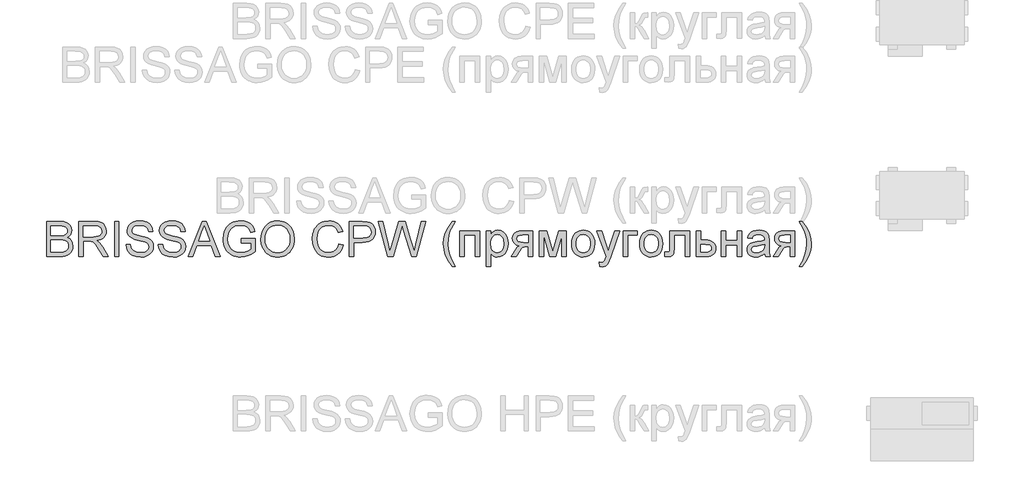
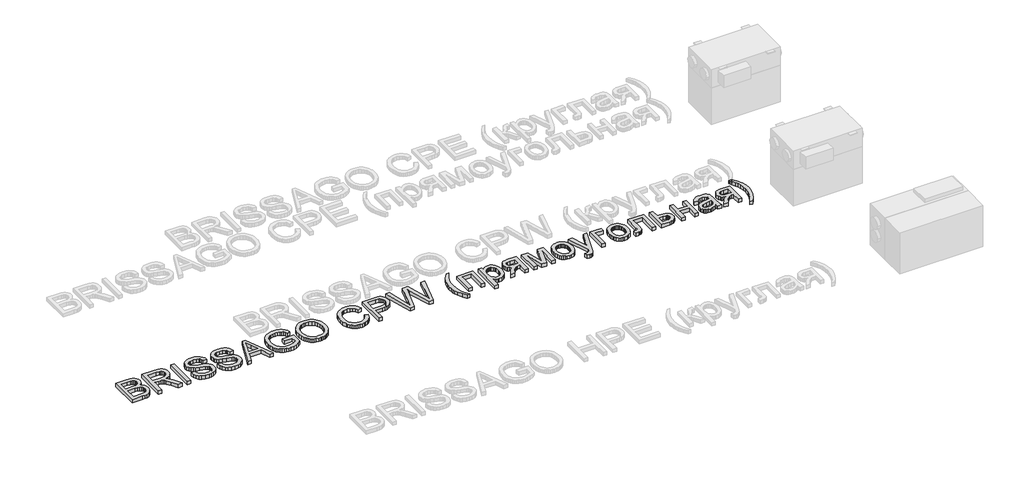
# One storey, part 17 of 28: 1 proxy.
"""IFC4 building model written with IfcOpenShell, lengths in millimetres."""

from ifc_helpers import new_model, si_unit, origin, origin_with_axes, place, context, project, spatial, polyline, outline, extrude, element, save

model = new_model("IFC4")

# Units and contexts
model_context = context("Model", 3, world=origin())
ifc_project = project(units=[si_unit("LENGTHUNIT", "METRE", prefix="MILLI")], contexts=[model_context])

# Site, building, storey
site = spatial("IfcSite", under=ifc_project)
building = spatial("IfcBuilding", under=site)
storey = spatial("IfcBuildingStorey", under=building, Name="Уровень 1", Elevation=0.0)

# Proxy
placement = place(None, origin())
element("IfcBuildingElementProxy", 1, Name="400 мм Arial", ObjectType="400 мм Arial", at=placement, inside=storey, context=model_context, shape_type="SweptSolid", body=[
    extrude(outline(polyline([(-30705.9711322, 7771.2907411), (-30705.9711322, 8173.1159817), (-30552.6379166, 8173.1159817), (-30510.4663772, 8170.160663), (-30477.5409386, 8161.294707), (-30452.3042338, 8146.2973843), (-30433.1988955, 8124.9479658), (-30421.1691542, 8099.8338883), (-30417.1592405, 8073.5425884), (-30420.5314921, 8049.3482158), (-30430.648247, 8026.6008458), (-30447.5830815, 8006.6984299), (-30471.409572, 7991.0389196), (-30442.9477683, 7976.176487), (-30421.917181, 7953.564007), (-30408.9309465, 7924.6975331), (-30404.6022017, 7891.0731188), (-30407.5575204, 7863.0527735), (-30416.4234765, 7837.0680419), (-30429.6549656, 7814.9705967), (-30445.7068833, 7798.6121107), (-30465.3640446, 7786.7663104), (-30489.4112643, 7778.2069227), (-30518.6333575, 7773.0197865), (-30553.815139, 7771.2907411), (-30705.9711322, 7771.2907411)]), holes=[polyline([(-30655.7429771, 8009.8744777), (-30564.017733, 8009.8744777), (-30510.4541145, 8014.1909598), (-30491.7043954, 8021.6344389), (-30478.2276517, 8032.7812633), (-30470.0974596, 8047.4597549), (-30467.3873956, 8065.4982354), (-30469.9135186, 8083.0094184), (-30477.4918877, 8098.2642585), (-30489.7791463, 8110.1713724), (-30506.431938, 8117.6393769), (-30531.9874739, 8121.5757142), (-30570.9829654, 8122.8878267), (-30655.7429771, 8122.8878267), (-30655.7429771, 8009.8744777)]), polyline([(-30655.7429771, 7821.5188962), (-30552.7360184, 7821.5188962), (-30515.4573096, 7823.4809335), (-30483.9175599, 7834.4192915), (-30472.3415398, 7843.8493333), (-30463.0218626, 7856.7374659), (-30456.8782332, 7872.5073407), (-30454.8303568, 7890.5826094), (-30457.2338525, 7911.5764086), (-30464.4443396, 7929.6271519), (-30477.0381666, 7943.7415577), (-30495.5916819, 7952.9263449), (-30521.870719, 7957.9663282), (-30557.6411117, 7959.6463227), (-30655.7429771, 7959.6463227), (-30655.7429771, 7821.5188962)])]), origin_with_axes(), (0.0, 0.0, 1.0), 50.0),
    extrude(outline(polyline([(-30335.5384885, 7771.2907411), (-30335.5384885, 8173.1159817), (-30162.3886961, 8173.1159817), (-30115.8516237, 8170.4059177), (-30081.9942174, 8162.2757256), (-30057.2480219, 8147.2661402), (-30038.0445817, 8123.9178963), (-30025.7205349, 8094.9655832), (-30021.6125193, 8063.1437906), (-30023.3139735, 8042.5056107), (-30028.4183362, 8023.559688), (-30036.9256073, 8006.3060224), (-30048.8357869, 7990.744614), (-30064.3021591, 7977.3721035), (-30083.4780081, 7966.6851315), (-30106.3633339, 7958.6836981), (-30132.9581365, 7953.3678033), (-30104.4104937, 7931.8834948), (-30063.6982195, 7880.1838117), (-29996.6946455, 7771.2907411), (-30055.0652554, 7771.2907411), (-30107.3535496, 7854.5792249), (-30145.1227678, 7909.7124732), (-30159.1635973, 7925.7889164), (-30171.6593224, 7935.7585185), (-30195.5471266, 7945.3234503), (-30224.6833806, 7947.0892839), (-30285.3103334, 7947.0892839), (-30285.3103334, 7771.2907411), (-30335.5384885, 7771.2907411)]), holes=[polyline([(-30285.3103334, 7997.317439), (-30172.8855957, 7997.317439), (-30140.5978192, 7999.0955353), (-30115.5450554, 8004.4298242), (-30096.6849718, 8013.675925), (-30082.9752361, 8027.189457), (-30074.6243148, 8043.5356803), (-30071.8406743, 8061.2798552), (-30077.1504378, 8085.7807961), (-30093.0797282, 8105.5237965), (-30105.2412938, 8113.1205597), (-30120.4869368, 8118.5468191), (-30160.2304551, 8122.8878267), (-30285.3103334, 8122.8878267), (-30285.3103334, 7997.317439)])]), origin_with_axes(), (0.0, 0.0, 1.0), 50.0),
    extrude(outline(polyline([(-29927.4347285, 7771.2907411), (-29927.4347285, 8173.1159817), (-29877.2065734, 8173.1159817), (-29877.2065734, 7771.2907411), (-29927.4347285, 7771.2907411)])), origin_with_axes(), (0.0, 0.0, 1.0), 50.0),
    extrude(outline(polyline([(-29795.5858214, 7909.4181676), (-29745.3576664, 7909.4181676), (-29739.5941818, 7881.5449751), (-29729.1708586, 7859.1409616), (-29712.9104744, 7841.3599985), (-29689.6358068, 7827.3559572), (-29661.1862659, 7818.2692719), (-29629.4012615, 7815.2403768), (-29601.4177044, 7817.5335079), (-29576.9167635, 7824.4129012), (-29557.0633985, 7835.3022083), (-29543.022569, 7849.6250806), (-29534.6716477, 7866.0694058), (-29531.8880073, 7883.3230714), (-29533.9726719, 7900.1352786), (-29540.2266659, 7914.6666174), (-29552.9308574, 7927.0642406), (-29574.366115, 7937.4753011), (-29647.5010556, 7956.6542158), (-29695.509656, 7969.3461446), (-29726.2278026, 7981.4249368), (-29751.2315156, 7998.3229831), (-29768.951165, 8018.8017475), (-29779.5093782, 8042.4197716), (-29783.0287827, 8068.735597), (-29778.6755124, 8098.1538939), (-29765.6157016, 8125.585628), (-29744.1927067, 8148.8357701), (-29714.7498844, 8165.7092909), (-29679.4086874, 8175.9731986), (-29640.2905685, 8179.3945011), (-29597.9105627, 8175.813783), (-29560.8280576, 8165.0716288), (-29530.3674284, 8147.3887675), (-29507.8530503, 8122.9859285), (-29493.6037543, 8093.3836907), (-29487.9383716, 8060.1026328), (-29538.1665267, 8060.1026328), (-29547.388102, 8090.0727527), (-29555.751286, 8101.9308157), (-29566.6160676, 8111.704214), (-29596.6597639, 8124.800813), (-29638.3285312, 8129.1663461), (-29680.9783172, 8124.849864), (-29697.281621, 8119.4542614), (-29710.2371986, 8111.9004177), (-29727.1597703, 8092.8441304), (-29732.8006276, 8070.207125), (-29728.8029766, 8050.9055829), (-29716.8100235, 8035.3809627), (-29688.4585844, 8021.4995488), (-29634.7968641, 8007.3238292), (-29579.4183611, 7993.8593482), (-29545.916574, 7982.1116498), (-29517.2830921, 7963.8892284), (-29497.3070997, 7941.3993757), (-29485.5716641, 7914.8873466), (-29481.6598522, 7884.5983957), (-29486.1602753, 7853.6349944), (-29499.6615445, 7824.5110031), (-29521.6118369, 7799.4459765), (-29551.4593294, 7780.6594693), (-29587.3523494, 7768.9240336), (-29627.4392242, 7765.0122218), (-29676.6495724, 7769.230602), (-29717.1533801, 7781.8857426), (-29749.416631, 7803.0266946), (-29773.9053092, 7832.7025089), (-29789.6261331, 7868.8530463), (-29795.5858214, 7909.4181676)])), origin_with_axes(), (0.0, 0.0, 1.0), 50.0),
    extrude(outline(polyline([(-29425.1531778, 7909.4181676), (-29374.9250227, 7909.4181676), (-29369.1615381, 7881.5449751), (-29358.7382149, 7859.1409616), (-29342.4778307, 7841.3599985), (-29319.2031631, 7827.3559572), (-29290.7536222, 7818.2692719), (-29258.9686178, 7815.2403768), (-29230.9850607, 7817.5335079), (-29206.4841198, 7824.4129012), (-29186.6307548, 7835.3022083), (-29172.5899253, 7849.6250806), (-29164.239004, 7866.0694058), (-29161.4553636, 7883.3230714), (-29163.5400283, 7900.1352786), (-29169.7940222, 7914.6666174), (-29182.4982137, 7927.0642406), (-29203.9334713, 7937.4753011), (-29277.068412, 7956.6542158), (-29325.0770123, 7969.3461446), (-29355.7951589, 7981.4249368), (-29380.7988719, 7998.3229831), (-29398.5185213, 8018.8017475), (-29409.0767346, 8042.4197716), (-29412.596139, 8068.735597), (-29408.2428687, 8098.1538939), (-29395.1830579, 8125.585628), (-29373.760063, 8148.8357701), (-29344.3172407, 8165.7092909), (-29308.9760437, 8175.9731986), (-29269.8579249, 8179.3945011), (-29227.477919, 8175.813783), (-29190.3954139, 8165.0716288), (-29159.9347847, 8147.3887675), (-29137.4204066, 8122.9859285), (-29123.1711107, 8093.3836907), (-29117.5057279, 8060.1026328), (-29167.733883, 8060.1026328), (-29176.9554583, 8090.0727527), (-29185.3186424, 8101.9308157), (-29196.183424, 8111.704214), (-29226.2271202, 8124.800813), (-29267.8958876, 8129.1663461), (-29310.5456735, 8124.849864), (-29326.8489773, 8119.4542614), (-29339.8045549, 8111.9004177), (-29356.7271267, 8092.8441304), (-29362.3679839, 8070.207125), (-29358.3703329, 8050.9055829), (-29346.3773799, 8035.3809627), (-29318.0259408, 8021.4995488), (-29264.3642204, 8007.3238292), (-29208.9857174, 7993.8593482), (-29175.4839304, 7982.1116498), (-29146.8504484, 7963.8892284), (-29126.8744561, 7941.3993757), (-29115.1390204, 7914.8873466), (-29111.2272085, 7884.5983957), (-29115.7276316, 7853.6349944), (-29129.2289008, 7824.5110031), (-29151.1791932, 7799.4459765), (-29181.0266858, 7780.6594693), (-29216.9197058, 7768.9240336), (-29257.0065805, 7765.0122218), (-29306.2169287, 7769.230602), (-29346.7207364, 7781.8857426), (-29378.9839874, 7803.0266946), (-29403.4726655, 7832.7025089), (-29419.1934894, 7868.8530463), (-29425.1531778, 7909.4181676)])), origin_with_axes(), (0.0, 0.0, 1.0), 50.0),
    extrude(outline(polyline([(-29082.6795657, 7771.2907411), (-28922.2830158, 8173.1159817), (-28879.5106025, 8173.1159817), (-28719.1140526, 7771.2907411), (-28772.1871618, 7771.2907411), (-28818.1969367, 7896.8611288), (-28983.6947835, 7896.8611288), (-29029.6064565, 7771.2907411), (-29082.6795657, 7771.2907411)]), holes=[polyline([(-28965.2516329, 7947.0892839), (-28836.5419855, 7947.0892839), (-28872.7415738, 8045.8778623), (-28900.8968092, 8122.8878267), (-28925.9127848, 8054.5108265), (-28965.2516329, 7947.0892839)])]), origin_with_axes(), (0.0, 0.0, 1.0), 50.0),
    extrude(outline(polyline([(-28477.0967507, 7928.2537258), (-28477.0967507, 7978.4818808), (-28313.8552467, 7978.4818808), (-28313.8552467, 7828.2879249), (-28353.5251885, 7800.6967753), (-28394.4459291, 7780.9047239), (-28436.5193667, 7768.9853473), (-28479.6473992, 7765.0122218), (-28508.4985447, 7766.5910487), (-28535.9946582, 7771.3275293), (-28562.1357396, 7779.2216638), (-28586.921789, 7790.2734521), (-28609.5526631, 7804.3173473), (-28629.2282185, 7821.1878024), (-28645.9484551, 7840.8848176), (-28659.7133731, 7863.4083927), (-28670.4647244, 7888.0380923), (-28678.1442611, 7914.0534807), (-28682.7519831, 7941.454558), (-28684.2878904, 7970.2413241), (-28678.1687866, 8026.8338377), (-28670.5199067, 8053.6493695), (-28659.811475, 8079.4777512), (-28646.2335637, 8103.1846801), (-28629.9762452, 8123.6358534), (-28611.0395195, 8140.831271), (-28589.4233866, 8154.7709329), (-28565.596896, 8165.543744), (-28540.0290974, 8173.2386091), (-28512.7199906, 8177.8555281), (-28483.6695757, 8179.3945011), (-28442.295114, 8175.8260458), (-28405.0899815, 8165.1206797), (-28373.7586983, 8148.0509551), (-28350.0057841, 8125.3894242), (-28332.4332875, 8096.0447038), (-28319.6432568, 8058.9254104), (-28365.9473372, 8045.8778623), (-28376.2848213, 8072.3531033), (-28388.8541228, 8092.3290956), (-28405.482389, 8107.3877319), (-28427.9967671, 8119.1109048), (-28454.83989, 8126.6524857), (-28484.4543906, 8129.1663461), (-28519.1211373, 8126.456282), (-28548.7601634, 8118.3260899), (-28573.2611043, 8105.7935766), (-28592.5135953, 8089.876549), (-28607.2901888, 8071.3966101), (-28618.3634369, 8051.1753631), (-28630.1356607, 8013.2589921), (-28634.0597353, 7972.3014633), (-28629.3385831, 7924.2683375), (-28615.1751262, 7884.7455485), (-28591.9985605, 7854.0151391), (-28560.2380816, 7832.3591523), (-28523.0697374, 7819.5200707), (-28483.6695757, 7815.2403768), (-28448.8802017, 7818.4654757), (-28414.949219, 7828.1407721), (-28385.4818712, 7841.4703631), (-28364.0834018, 7855.6583454), (-28364.0834018, 7928.2537258), (-28477.0967507, 7928.2537258)])), origin_with_axes(), (0.0, 0.0, 1.0), 50.0),
    extrude(outline(polyline([(-28251.0700529, 7966.9058607), (-28247.7223267, 8014.0376757), (-28237.6791483, 8055.7616253), (-28220.9405175, 8092.0777096), (-28197.5064344, 8122.9859285), (-28168.7809819, 8147.664679), (-28136.1682431, 8165.292358), (-28099.6682178, 8175.8689653), (-28059.2809061, 8179.3945011), (-28032.2477108, 8177.7390321), (-28006.5756789, 8172.7726252), (-27982.2648104, 8164.4952803), (-27959.3151052, 8152.9069975), (-27938.370357, 8138.3572646), (-27920.0743591, 8121.1955695), (-27904.4271116, 8101.4219122), (-27891.4286144, 8079.0362928), (-27881.2137577, 8054.5476147), (-27873.9174314, 8028.4647812), (-27868.0803704, 7971.5166484), (-27869.6162778, 7941.8592282), (-27874.2239998, 7913.8082261), (-27881.9035364, 7887.363642), (-27892.6548877, 7862.5254759), (-27906.223602, 7839.9497842), (-27922.3552275, 7820.2926229), (-27941.0497642, 7803.5539921), (-27962.3072121, 7789.7338918), (-27985.2906398, 7778.9181612), (-28009.1631156, 7771.1926393), (-28033.9246395, 7766.5573261), (-28059.5752117, 7765.0122218), (-28087.0805222, 7766.7198074), (-28113.0897792, 7771.8425641), (-28137.6029828, 7780.3804921), (-28160.620133, 7792.3335913), (-28181.5403558, 7807.2389434), (-28199.7627773, 7824.6336304), (-28215.2873975, 7844.5176523), (-28228.1142164, 7866.891009), (-28245.3310938, 7915.512746), (-28251.0700529, 7966.9058607)]), holes=[polyline([(-28200.8418978, 7966.4153514), (-28198.3311032, 7933.1158995), (-28190.7987193, 7903.5565811), (-28178.2447463, 7877.7373964), (-28160.6691839, 7855.6583454), (-28139.3044371, 7837.9754841), (-28115.3829103, 7825.344869), (-28088.9046037, 7817.7664999), (-28059.8695173, 7815.2403768), (-28030.3377901, 7817.7910253), (-28003.5467838, 7825.4429708), (-27979.4964984, 7838.1962133), (-27958.1869338, 7856.0507528), (-27940.7401302, 7878.5957878), (-27928.2781276, 7905.4205166), (-27920.800926, 7936.5249393), (-27918.3085255, 7971.9090558), (-27922.5759567, 8016.3737263), (-27935.3782501, 8054.8051321), (-27956.384312, 8086.2345172), (-27985.2630486, 8109.6931258), (-28020.1014736, 8124.298041), (-28058.9866005, 8129.1663461), (-28087.0130771, 8126.8210983), (-28113.0162028, 8119.7853552), (-28136.9959775, 8108.0591166), (-28158.9524013, 8091.6423825), (-28177.279056, 8069.7442068), (-28190.3695237, 8041.573643), (-28198.2238043, 8007.1306912), (-28200.8418978, 7966.4153514)])]), origin_with_axes(), (0.0, 0.0, 1.0), 50.0),
    extrude(outline(polyline([(-27359.5203003, 7914.1270571), (-27309.2921452, 7901.1776109), (-27319.2310905, 7869.9413638), (-27332.4687109, 7842.6475855), (-27349.0050066, 7819.2962758), (-27368.8399775, 7799.8874349), (-27391.5260339, 7784.6295292), (-27416.615586, 7773.731025), (-27444.1086337, 7767.1919226), (-27474.0051772, 7765.0122218), (-27504.634419, 7766.6615594), (-27532.2654225, 7771.6095722), (-27556.8981878, 7779.8562603), (-27578.5327148, 7791.4016235), (-27597.4663748, 7806.0739838), (-27613.9965391, 7823.7016627), (-27628.1232077, 7844.2846604), (-27639.8463806, 7867.8229767), (-27655.6285182, 7919.694338), (-27660.8892308, 7975.2445193), (-27654.9418052, 8033.8358584), (-27647.5075232, 8060.1332897), (-27637.0995284, 8084.4318954), (-27623.9508128, 8106.3300712), (-27608.2943682, 8125.4262124), (-27590.1301947, 8141.7203191), (-27569.4582922, 8155.2123913), (-27546.9807023, 8165.7920644), (-27523.3994664, 8173.3489737), (-27472.9260567, 8179.3945011), (-27444.1975385, 8177.4385952), (-27417.854122, 8171.5708774), (-27393.8958071, 8161.7913477), (-27372.3225937, 8148.1000061), (-27353.4901013, 8130.8586032), (-27337.7539489, 8110.4288898), (-27325.1141367, 8086.8108657), (-27315.5706646, 8060.004531), (-27365.7988197, 8048.0361034), (-27383.2119008, 8084.6648874), (-27407.0016032, 8109.7912276), (-27437.4622324, 8124.3225664), (-27474.888094, 8129.1663461), (-27518.0283893, 8123.7952689), (-27536.7106633, 8117.0814225), (-27553.4676882, 8107.6820375), (-27580.359862, 8082.5189091), (-27597.8587822, 8049.9981407), (-27607.4605023, 8013.2344666), (-27610.6610757, 7975.3426211), (-27606.8718911, 7928.9404388), (-27595.5043375, 7888.8167759), (-27576.1292191, 7856.504474), (-27548.3173402, 7833.5363747), (-27514.9749687, 7819.8143763), (-27479.0083723, 7815.2403768), (-27457.1715102, 7816.7977439), (-27437.0820876, 7821.4698453), (-27418.7401045, 7829.2566808), (-27402.1455608, 7840.1582506), (-27387.6908641, 7854.1255037), (-27375.7684218, 7871.1093892), (-27366.3782338, 7891.109907), (-27359.5203003, 7914.1270571)])), origin_with_axes(), (0.0, 0.0, 1.0), 50.0),
    extrude(outline(polyline([(-27240.228432, 7771.2907411), (-27240.228432, 8173.1159817), (-27091.3098004, 8173.1159817), (-27031.2714587, 8169.290009), (-27004.5019122, 8162.1408356), (-26982.4657807, 8150.5035018), (-26964.7216058, 8133.8507101), (-26950.8279291, 8111.6551631), (-26941.8516085, 8085.4742278), (-26938.8595016, 8056.8652713), (-26940.8797868, 8032.1987835), (-26946.9406427, 8009.5065958), (-26957.0420692, 7988.7887081), (-26971.1840662, 7970.0451204), (-26990.5990385, 7954.5082375), (-27016.5193907, 7943.410464), (-27048.9451229, 7936.7517998), (-27087.8762351, 7934.5322451), (-27190.0002769, 7934.5322451), (-27190.0002769, 7771.2907411), (-27240.228432, 7771.2907411)]), holes=[polyline([(-27190.0002769, 7984.7604002), (-27084.9331791, 7984.7604002), (-27040.3949322, 7989.3711879), (-27023.7911915, 7995.1346725), (-27010.9643726, 8003.2035509), (-27001.3933094, 8013.3632253), (-26994.5568356, 8025.3990979), (-26989.0876566, 8055.0994377), (-26992.3127555, 8077.6628667), (-27001.9880519, 8096.6946286), (-27016.9117982, 8111.017501), (-27035.8822464, 8119.4542614), (-27086.1104015, 8122.8878267), (-27190.0002769, 8122.8878267), (-27190.0002769, 7984.7604002)])]), origin_with_axes(), (0.0, 0.0, 1.0), 50.0),
    extrude(outline(polyline([(-26797.887121, 7771.2907411), (-26907.4669046, 8173.1159817), (-26855.6691197, 8173.1159817), (-26792.0991109, 7909.0257601), (-26772.4787379, 7827.50311), (-26751.4849387, 7899.6079811), (-26671.826224, 8173.1159817), (-26597.1707044, 8173.1159817), (-26539.2906039, 7974.8521118), (-26514.4953574, 7901.2757128), (-26496.223885, 7827.50311), (-26477.1921231, 7906.6713154), (-26413.0335031, 8173.1159817), (-26361.2357182, 8173.1159817), (-26470.9136037, 7771.2907411), (-26524.5753241, 7771.2907411), (-26620.9113559, 8081.2926357), (-26634.3513114, 8124.5555584), (-26649.4589987, 8072.4634679), (-26737.2601682, 7771.2907411), (-26797.887121, 7771.2907411)])), origin_with_axes(), (0.0, 0.0, 1.0), 50.0),
    extrude(outline(polyline([(-26059.8667877, 7658.2773922), (-26098.7887028, 7712.8956058), (-26131.1868439, 7776.0977325), (-26143.933955, 7810.1513426), (-26153.0390344, 7844.8180892), (-26158.502082, 7880.0979726), (-26160.3230979, 7915.9909926), (-26154.8784444, 7978.4083044), (-26138.5444838, 8038.127815), (-26106.1218173, 8105.7690512), (-26059.8667877, 8173.1159817), (-26022.1956714, 8173.1159817), (-26069.186465, 8093.5553689), (-26085.2261199, 8055.7861507), (-26097.4398022, 8016.4473027), (-26106.9311577, 7966.1946222), (-26110.0949428, 7915.696687), (-26104.6012384, 7851.3050751), (-26088.120125, 7786.9379887), (-26060.6516027, 7722.5954277), (-26022.1956714, 7658.2773922), (-26059.8667877, 7658.2773922)])), origin_with_axes(), (0.0, 0.0, 1.0), 50.0),
    extrude(outline(polyline([(-25971.9675164, 8066.3811522), (-25745.9408185, 8066.3811522), (-25745.9408185, 7771.2907411), (-25796.1689736, 7771.2907411), (-25796.1689736, 8016.1529971), (-25921.7393613, 8016.1529971), (-25921.7393613, 7771.2907411), (-25971.9675164, 7771.2907411), (-25971.9675164, 8066.3811522)])), origin_with_axes(), (0.0, 0.0, 1.0), 50.0),
    extrude(outline(polyline([(-25670.5985859, 7658.2773922), (-25670.5985859, 8066.3811522), (-25620.3704308, 8066.3811522), (-25620.3704308, 8017.1340158), (-25603.9874193, 8041.4264902), (-25585.6423705, 8058.7782576), (-25564.2561638, 8069.1893181), (-25538.7496788, 8072.6596716), (-25504.781908, 8067.8036293), (-25475.0815682, 8053.2355022), (-25450.8994584, 8029.8382074), (-25433.4863773, 7998.4946614), (-25422.9649522, 7961.4857326), (-25419.4578105, 7921.0922896), (-25423.4186734, 7878.1359353), (-25435.3012618, 7839.7167922), (-25454.7254311, 7807.7846351), (-25481.3110367, 7784.2892383), (-25512.2744379, 7769.8314759), (-25544.8319945, 7765.0122218), (-25567.9227211, 7768.2373206), (-25588.5363755, 7777.9126171), (-25606.1824486, 7792.5175323), (-25620.3704308, 7810.5314873), (-25620.3704308, 7658.2773922), (-25670.5985859, 7658.2773922)]), holes=[polyline([(-25620.3704308, 7916.4815019), (-25614.93804, 7871.4527457), (-25608.1475516, 7854.0151391), (-25598.6408677, 7839.9620469), (-25574.5936479, 7821.4207944), (-25560.8317956, 7816.7854812), (-25545.911115, 7815.2403768), (-25530.7758366, 7816.8406635), (-25516.7625983, 7821.6415235), (-25503.8714, 7829.6429569), (-25492.1022419, 7840.8449637), (-25482.295121, 7855.4069593), (-25475.2900347, 7873.4883594), (-25471.0869829, 7895.0891639), (-25469.6859656, 7920.2093728), (-25475.1551446, 7964.9928743), (-25481.9916184, 7982.565371), (-25491.5626816, 7996.9250315), (-25515.5731132, 8016.0548953), (-25529.1786156, 8020.8373612), (-25543.8509758, 8022.4315165), (-25558.4773508, 8020.7361937), (-25572.2392031, 8015.6502251), (-25597.1693397, 7995.3063507), (-25607.3198171, 7980.2078605), (-25614.5701581, 7962.0375556), (-25618.9203626, 7940.7954361), (-25620.3704308, 7916.4815019)])]), origin_with_axes(), (0.0, 0.0, 1.0), 50.0),
    extrude(outline(polyline([(-25136.9244382, 8066.3811522), (-25136.9244382, 7771.2907411), (-25187.1525933, 7771.2907411), (-25187.1525933, 7884.3040901), (-25214.5230138, 7884.3040901), (-25236.3506788, 7882.7099347), (-25251.8017226, 7877.9274688), (-25266.6886807, 7864.0215294), (-25286.8240885, 7835.0569536), (-25326.8496496, 7771.2907411), (-25384.9259539, 7771.2907411), (-25334.5015951, 7851.9304745), (-25312.2324717, 7880.8705248), (-25291.7291818, 7893.7218691), (-25326.0648347, 7904.2432942), (-25339.4066884, 7913.054068), (-25350.1978936, 7924.2315493), (-25364.471715, 7950.8171548), (-25369.2296555, 7981.1306312), (-25367.6048433, 7999.2181626), (-25362.7304069, 8015.515335), (-25354.6063462, 8030.0221484), (-25343.2326611, 8042.7386027), (-25328.7810301, 8053.0822181), (-25311.4231313, 8060.4705148), (-25291.1589647, 8064.9034929), (-25267.9885304, 8066.3811522), (-25136.9244382, 8066.3811522)]), holes=[polyline([(-25187.1525933, 8016.1529971), (-25253.3713525, 8016.1529971), (-25287.5721153, 8013.2467294), (-25306.9840219, 8004.5279261), (-25315.9971308, 7991.9095736), (-25319.0015004, 7977.3046584), (-25314.5746537, 7958.162532), (-25301.2941137, 7944.8819919), (-25276.7563846, 7937.1196818), (-25238.5579708, 7934.5322451), (-25187.1525933, 7934.5322451), (-25187.1525933, 8016.1529971)])]), origin_with_axes(), (0.0, 0.0, 1.0), 50.0),
    extrude(outline(polyline([(-25061.5822056, 8066.3811522), (-24975.1544622, 8066.3811522), (-24908.5432956, 7830.1518604), (-24836.7327302, 8066.3811522), (-24753.9347558, 8066.3811522), (-24753.9347558, 7771.2907411), (-24804.1629109, 7771.2907411), (-24804.1629109, 8008.8934591), (-24876.3658838, 7771.2907411), (-24942.2903373, 7771.2907411), (-25011.3540506, 8020.2732755), (-25011.3540506, 7771.2907411), (-25061.5822056, 7771.2907411), (-25061.5822056, 8066.3811522)])), origin_with_axes(), (0.0, 0.0, 1.0), 50.0),
    extrude(outline(polyline([(-24691.149562, 7918.8359467), (-24688.4333666, 7957.0527546), (-24680.2847804, 7989.9843245), (-24666.7038034, 8017.6306565), (-24647.6904356, 8039.9917504), (-24628.5483091, 8054.2839659), (-24607.4196199, 8064.4926913), (-24584.3043678, 8070.6179265), (-24559.202553, 8072.6596716), (-24531.4918417, 8070.1734024), (-24506.4360122, 8062.714595), (-24484.0350644, 8050.2832492), (-24464.2889983, 8032.8793652), (-24448.1727012, 8011.091554), (-24436.6610604, 7985.5084269), (-24429.754076, 7956.1299839), (-24427.4517478, 7922.956225), (-24431.5229752, 7872.2130352), (-24443.7366575, 7833.5854257), (-24463.7371753, 7804.6576381), (-24491.1689094, 7783.0139141), (-24523.7509914, 7769.5126448), (-24559.202553, 7765.0122218), (-24587.3179345, 7767.4892939), (-24612.606756, 7774.9205102), (-24635.0690175, 7787.3058707), (-24654.704719, 7804.6453754), (-24670.6493378, 7826.6447187), (-24682.0383512, 7853.009595), (-24688.8717593, 7883.7400043), (-24691.149562, 7918.8359467)]), holes=[polyline([(-24640.9214069, 7918.9340485), (-24639.468273, 7894.5710634), (-24635.1088714, 7873.4760967), (-24627.843202, 7855.6491483), (-24617.6712648, 7841.0902184), (-24605.298167, 7829.7809127), (-24591.4290158, 7821.7028372), (-24576.0638111, 7816.8559919), (-24559.202553, 7815.2403768), (-24542.427134, 7816.865189), (-24527.123243, 7821.7396254), (-24513.29088, 7829.8636861), (-24500.930045, 7841.2373712), (-24490.7581078, 7855.9403882), (-24483.4924384, 7874.0524451), (-24479.1330368, 7895.5735418), (-24477.6799029, 7920.5036784), (-24479.1422338, 7944.0941113), (-24483.5292266, 7964.6372551), (-24490.8408813, 7982.1331096), (-24501.0771978, 7996.581675), (-24513.4840181, 8007.8909807), (-24527.307184, 8015.9690561), (-24542.5466957, 8020.8159014), (-24559.202553, 8022.4315165), (-24576.0638111, 8020.8220328), (-24591.4290158, 8015.9935816), (-24605.298167, 8007.946163), (-24617.6712648, 7996.6797769), (-24627.843202, 7982.1637665), (-24635.1088714, 7964.3674749), (-24639.468273, 7943.2909023), (-24640.9214069, 7918.9340485)])]), origin_with_axes(), (0.0, 0.0, 1.0), 50.0),
    extrude(outline(polyline([(-24370.9450734, 7658.2773922), (-24377.2235927, 7706.6416119), (-24351.7171077, 7702.2270279), (-24338.3016777, 7703.6127168), (-24327.8783545, 7707.7697833), (-24313.2611765, 7723.2208271), (-24299.5269154, 7760.2052304), (-24295.6028407, 7772.3698617), (-24402.3376703, 8066.3811522), (-24349.362663, 8066.3811522), (-24292.7578866, 7902.551037), (-24273.0394117, 7837.0189909), (-24253.3209368, 7894.8990915), (-24195.1465306, 8066.3811522), (-24142.5639308, 8066.3811522), (-24245.2765838, 7764.2274068), (-24271.9602912, 7698.6953608), (-24285.6209759, 7677.775138), (-24301.0965452, 7663.2805874), (-24319.073712, 7654.8193015), (-24340.2391895, 7651.9988728), (-24370.9450734, 7658.2773922)])), origin_with_axes(), (0.0, 0.0, 1.0), 50.0),
    extrude(outline(polyline([(-24100.9687398, 8066.3811522), (-23937.7272358, 8066.3811522), (-23937.7272358, 8016.1529971), (-24050.7405848, 8016.1529971), (-24050.7405848, 7771.2907411), (-24100.9687398, 7771.2907411), (-24100.9687398, 8066.3811522)])), origin_with_axes(), (0.0, 0.0, 1.0), 50.0),
    extrude(outline(polyline([(-23912.6131583, 7918.8359467), (-23909.8969629, 7957.0527546), (-23901.7483767, 7989.9843245), (-23888.1673997, 8017.6306565), (-23869.1540319, 8039.9917504), (-23850.0119055, 8054.2839659), (-23828.8832162, 8064.4926913), (-23805.7679642, 8070.6179265), (-23780.6661494, 8072.6596716), (-23752.9554381, 8070.1734024), (-23727.8996085, 8062.714595), (-23705.4986607, 8050.2832492), (-23685.7525946, 8032.8793652), (-23669.6362975, 8011.091554), (-23658.1246568, 7985.5084269), (-23651.2176723, 7956.1299839), (-23648.9153442, 7922.956225), (-23652.9865716, 7872.2130352), (-23665.2002538, 7833.5854257), (-23685.2007716, 7804.6576381), (-23712.6325057, 7783.0139141), (-23745.2145878, 7769.5126448), (-23780.6661494, 7765.0122218), (-23808.7815308, 7767.4892939), (-23834.0703523, 7774.9205102), (-23856.5326138, 7787.3058707), (-23876.1683153, 7804.6453754), (-23892.1129341, 7826.6447187), (-23903.5019476, 7853.009595), (-23910.3353556, 7883.7400043), (-23912.6131583, 7918.8359467)]), holes=[polyline([(-23862.3850032, 7918.9340485), (-23860.9318693, 7894.5710634), (-23856.5724677, 7873.4760967), (-23849.3067983, 7855.6491483), (-23839.1348611, 7841.0902184), (-23826.7617634, 7829.7809127), (-23812.8926121, 7821.7028372), (-23797.5274075, 7816.8559919), (-23780.6661494, 7815.2403768), (-23763.8907304, 7816.865189), (-23748.5868394, 7821.7396254), (-23734.7544764, 7829.8636861), (-23722.3936413, 7841.2373712), (-23712.2217042, 7855.9403882), (-23704.9560348, 7874.0524451), (-23700.5966331, 7895.5735418), (-23699.1434992, 7920.5036784), (-23700.6058302, 7944.0941113), (-23704.992823, 7964.6372551), (-23712.3044776, 7982.1331096), (-23722.5407941, 7996.581675), (-23734.9476144, 8007.8909807), (-23748.7707804, 8015.9690561), (-23764.010292, 8020.8159014), (-23780.6661494, 8022.4315165), (-23797.5274075, 8020.8220328), (-23812.8926121, 8015.9935816), (-23826.7617634, 8007.946163), (-23839.1348611, 7996.6797769), (-23849.3067983, 7982.1637665), (-23856.5724677, 7964.3674749), (-23860.9318693, 7943.2909023), (-23862.3850032, 7918.9340485)])]), origin_with_axes(), (0.0, 0.0, 1.0), 50.0),
    extrude(outline(polyline([(-23567.2945922, 8066.3811522), (-23341.2678943, 8066.3811522), (-23341.2678943, 7771.5850467), (-23391.4960494, 7771.5850467), (-23391.4960494, 8016.1529971), (-23517.0664371, 8016.1529971), (-23517.0664371, 7875.3768203), (-23520.4509514, 7810.4333854), (-23526.7907845, 7795.7303684), (-23539.0412549, 7783.0139141), (-23557.6315584, 7774.2215344), (-23582.9908906, 7771.2907411), (-23623.8012666, 7773.8413896), (-23623.8012666, 7821.5188962), (-23601.3359394, 7821.5188962), (-23578.6253576, 7824.609105), (-23569.5509351, 7834.4192915), (-23567.2945922, 7878.2217744), (-23567.2945922, 8066.3811522)])), origin_with_axes(), (0.0, 0.0, 1.0), 50.0),
    extrude(outline(polyline([(-23265.9256617, 8066.3811522), (-23215.6975066, 8066.3811522), (-23215.6975066, 7959.6463227), (-23157.8174061, 7959.6463227), (-23131.0969105, 7958.0736271), (-23107.6383019, 7953.3555406), (-23087.4415804, 7945.4920629), (-23070.5067459, 7934.4831942), (-23057.1158412, 7920.7090792), (-23047.5509094, 7904.5498625), (-23041.8119502, 7886.0055443), (-23039.8989639, 7865.0761244), (-23041.5268417, 7846.4030475), (-23046.4104752, 7829.1340535), (-23054.5498643, 7813.2691425), (-23065.9450091, 7798.8083144), (-23080.920872, 7786.7693761), (-23099.8024154, 7778.1701345), (-23122.5896393, 7773.0105895), (-23149.2825438, 7771.2907411), (-23265.9256617, 7771.2907411), (-23265.9256617, 8066.3811522)]), holes=[polyline([(-23215.6975066, 7821.5188962), (-23168.804815, 7821.5188962), (-23132.4212857, 7824.1553838), (-23108.2269131, 7832.0648467), (-23094.6520675, 7845.566116), (-23090.1271189, 7864.9780226), (-23093.4748451, 7881.3855596), (-23103.5180236, 7895.8801102), (-23112.2460239, 7901.8030103), (-23125.0391203, 7906.0336532), (-23162.8206012, 7909.4181676), (-23215.6975066, 7909.4181676), (-23215.6975066, 7821.5188962)])]), origin_with_axes(), (0.0, 0.0, 1.0), 50.0),
    extrude(outline(polyline([(-22977.11377, 8066.3811522), (-22926.885615, 8066.3811522), (-22926.885615, 7953.3678033), (-22795.0367079, 7953.3678033), (-22795.0367079, 8066.3811522), (-22744.8085528, 8066.3811522), (-22744.8085528, 7771.2907411), (-22795.0367079, 7771.2907411), (-22795.0367079, 7903.1396482), (-22926.885615, 7903.1396482), (-22926.885615, 7771.2907411), (-22977.11377, 7771.2907411), (-22977.11377, 8066.3811522)])), origin_with_axes(), (0.0, 0.0, 1.0), 50.0),
    extrude(outline(polyline([(-22481.1107387, 7808.9618574), (-22505.1089075, 7788.3849912), (-22529.8183148, 7774.9205102), (-22555.8030464, 7767.4892939), (-22583.627188, 7765.0122218), (-22605.9913476, 7766.5021438), (-22625.6025236, 7770.9719101), (-22642.4607161, 7778.4215205), (-22656.5659249, 7788.850975), (-22667.7035523, 7801.5980862), (-22675.6590005, 7816.0006663), (-22680.4322693, 7832.0587154), (-22682.023359, 7849.7722334), (-22679.6198633, 7870.5943544), (-22672.4093762, 7889.5034889), (-22661.2870772, 7905.6902967), (-22647.1481458, 7918.3454373), (-22630.5321424, 7927.9103692), (-22611.9786271, 7934.8265507), (-22568.5195007, 7942.3803944), (-22517.1631742, 7950.3266455), (-22481.4050443, 7959.6463227), (-22481.1107387, 7970.8299353), (-22484.5688294, 7993.2462116), (-22494.9431017, 8007.9124404), (-22518.1441928, 8018.8017475), (-22550.4687575, 8022.4315165), (-22580.3898264, 8020.0157581), (-22601.2855238, 8012.7684828), (-22615.5348197, 7999.3653154), (-22625.5166845, 7978.4818808), (-22675.7448396, 7984.7604002), (-22667.0260363, 8012.2289225), (-22654.0152764, 8033.8113329), (-22635.4985493, 8050.3169718), (-22610.2618444, 8062.5551795), (-22579.396545, 8070.1335486), (-22543.9940344, 8072.6596716), (-22510.0385262, 8070.4278542), (-22483.1218269, 8063.7324018), (-22462.8270035, 8053.6646979), (-22448.7371231, 8041.3161256), (-22439.3929204, 8026.0490228), (-22433.3351302, 8007.2257274), (-22430.8825836, 7963.2760917), (-22430.8825836, 7900.7852034), (-22428.3319351, 7813.5235942), (-22418.3255448, 7771.2907411), (-22468.5536999, 7771.2907411), (-22476.5980529, 7788.7528732), (-22481.1107387, 7808.9618574)]), holes=[polyline([(-22481.1107387, 7909.4181676), (-22514.8577804, 7901.0549836), (-22562.1428795, 7894.0161747), (-22605.3567512, 7885.8737199), (-22616.6016775, 7880.306439), (-22624.9280733, 7872.6299681), (-22630.0784212, 7863.4329182), (-22631.7952039, 7853.3039006), (-22628.0550703, 7838.3678916), (-22616.8346694, 7826.1296839), (-22598.379256, 7817.9627036), (-22572.9340847, 7815.2403768), (-22545.9560717, 7818.2447465), (-22522.1173184, 7827.2578553), (-22502.7912509, 7840.5383954), (-22489.3512954, 7856.3450584), (-22483.391607, 7872.6299681), (-22481.4050443, 7895.1933971), (-22481.1107387, 7909.4181676)])]), origin_with_axes(), (0.0, 0.0, 1.0), 50.0),
    extrude(outline(polyline([(-22135.7921725, 8066.3811522), (-22135.7921725, 7771.2907411), (-22186.0203276, 7771.2907411), (-22186.0203276, 7884.3040901), (-22213.390748, 7884.3040901), (-22235.2184131, 7882.7099347), (-22250.6694569, 7877.9274688), (-22265.556415, 7864.0215294), (-22285.6918228, 7835.0569536), (-22325.7173839, 7771.2907411), (-22383.7936882, 7771.2907411), (-22333.3693294, 7851.9304745), (-22311.100206, 7880.8705248), (-22290.5969161, 7893.7218691), (-22324.932569, 7904.2432942), (-22338.2744227, 7913.054068), (-22349.0656279, 7924.2315493), (-22363.3394493, 7950.8171548), (-22368.0973897, 7981.1306312), (-22366.4725776, 7999.2181626), (-22361.5981412, 8015.515335), (-22353.4740804, 8030.0221484), (-22342.1003954, 8042.7386027), (-22327.6487644, 8053.0822181), (-22310.2908656, 8060.4705148), (-22290.026699, 8064.9034929), (-22266.8562647, 8066.3811522), (-22135.7921725, 8066.3811522)]), holes=[polyline([(-22186.0203276, 8016.1529971), (-22252.2390867, 8016.1529971), (-22286.4398496, 8013.2467294), (-22305.8517562, 8004.5279261), (-22314.864865, 7991.9095736), (-22317.8692347, 7977.3046584), (-22313.442388, 7958.162532), (-22300.161848, 7944.8819919), (-22275.6241189, 7937.1196818), (-22237.4257051, 7934.5322451), (-22186.0203276, 7934.5322451), (-22186.0203276, 8016.1529971)])]), origin_with_axes(), (0.0, 0.0, 1.0), 50.0),
    extrude(outline(polyline([(-22047.8929011, 7658.2773922), (-22085.5640175, 7658.2773922), (-22047.1080862, 7722.5954277), (-22019.6395639, 7786.9379887), (-22003.1584505, 7851.3050751), (-21997.6647461, 7915.696687), (-22000.8285312, 7965.8267402), (-22010.3198867, 8015.5643859), (-22022.3128397, 8054.9768104), (-22038.2789183, 8092.770554), (-22085.5640175, 8173.1159817), (-22047.8929011, 8173.1159817), (-22001.6378716, 8105.7690512), (-21969.2152051, 8038.127815), (-21952.8812445, 7978.4083044), (-21947.436591, 7915.9909926), (-21949.2668039, 7880.0979726), (-21954.7574427, 7844.8180892), (-21963.9085073, 7810.1513426), (-21976.7199978, 7776.0977325), (-22009.1549271, 7712.8956058), (-22047.8929011, 7658.2773922)])), origin_with_axes(), (0.0, 0.0, 1.0), 50.0),
])

save(model, "model.ifc")
